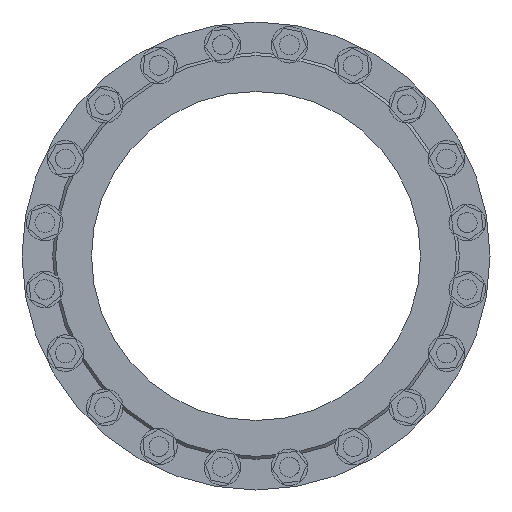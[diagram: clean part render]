
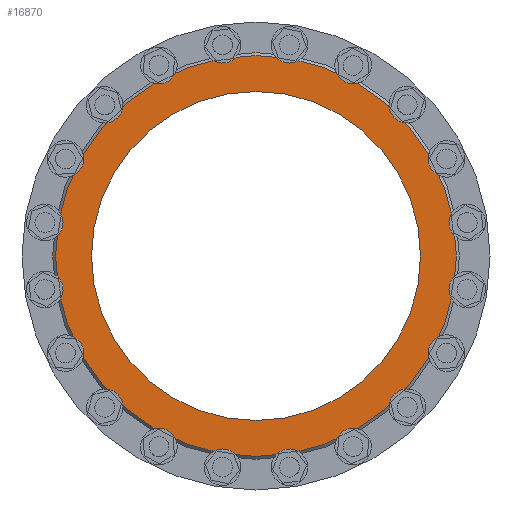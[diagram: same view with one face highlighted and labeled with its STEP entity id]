
A CAD part, left-side view. The second image highlights one B-rep face of the part: STEP entity #16870.
In plain terms, the highlighted planar face has unit normal (-1, 0, 0).
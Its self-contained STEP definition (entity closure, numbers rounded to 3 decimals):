
#969 = CARTESIAN_POINT ( 'NONE',  ( -25., -274., 0. ) ) ;
#2925 = EDGE_LOOP ( 'NONE', ( #5562 ) ) ;
#5467 = EDGE_CURVE ( 'NONE', #27819, #27819, #16544, .T. ) ;
#5562 = ORIENTED_EDGE ( 'NONE', *, *, #17473, .T. ) ;
#5688 = DIRECTION ( 'NONE',  ( 1., 0., 0. ) ) ;
#5733 = DIRECTION ( 'NONE',  ( 0., -1., 0. ) ) ;
#10811 = CARTESIAN_POINT ( 'NONE',  ( -25., 0., 225. ) ) ;
#15296 = CIRCLE ( 'NONE', #17856, 225. ) ;
#15437 = DIRECTION ( 'NONE',  ( 0., 1., 0. ) ) ;
#16544 = CIRCLE ( 'NONE', #21120, 274. ) ;
#16870 = ADVANCED_FACE ( 'NONE', ( #25175, #27591 ), #20697, .F. ) ;
#17473 = EDGE_CURVE ( 'NONE', #25855, #25855, #15296, .T. ) ;
#17856 = AXIS2_PLACEMENT_3D ( 'NONE', #31220, #19525, #21609 ) ;
#19525 = DIRECTION ( 'NONE',  ( 1., 0., 0. ) ) ;
#20697 = PLANE ( 'NONE',  #29633 ) ;
#20823 = EDGE_LOOP ( 'NONE', ( #28101 ) ) ;
#21120 = AXIS2_PLACEMENT_3D ( 'NONE', #22665, #28106, #5733 ) ;
#21609 = DIRECTION ( 'NONE',  ( 0., 0., -1. ) ) ;
#22665 = CARTESIAN_POINT ( 'NONE',  ( -25., 0., 0. ) ) ;
#23765 = CARTESIAN_POINT ( 'NONE',  ( -25., 0., -225. ) ) ;
#25175 = FACE_BOUND ( 'NONE', #2925, .T. ) ;
#25855 = VERTEX_POINT ( 'NONE', #23765 ) ;
#27591 = FACE_OUTER_BOUND ( 'NONE', #20823, .T. ) ;
#27819 = VERTEX_POINT ( 'NONE', #969 ) ;
#28101 = ORIENTED_EDGE ( 'NONE', *, *, #5467, .T. ) ;
#28106 = DIRECTION ( 'NONE',  ( -1., 0., 0. ) ) ;
#29633 = AXIS2_PLACEMENT_3D ( 'NONE', #10811, #5688, #15437 ) ;
#31220 = CARTESIAN_POINT ( 'NONE',  ( -25., 0., 0. ) ) ;
